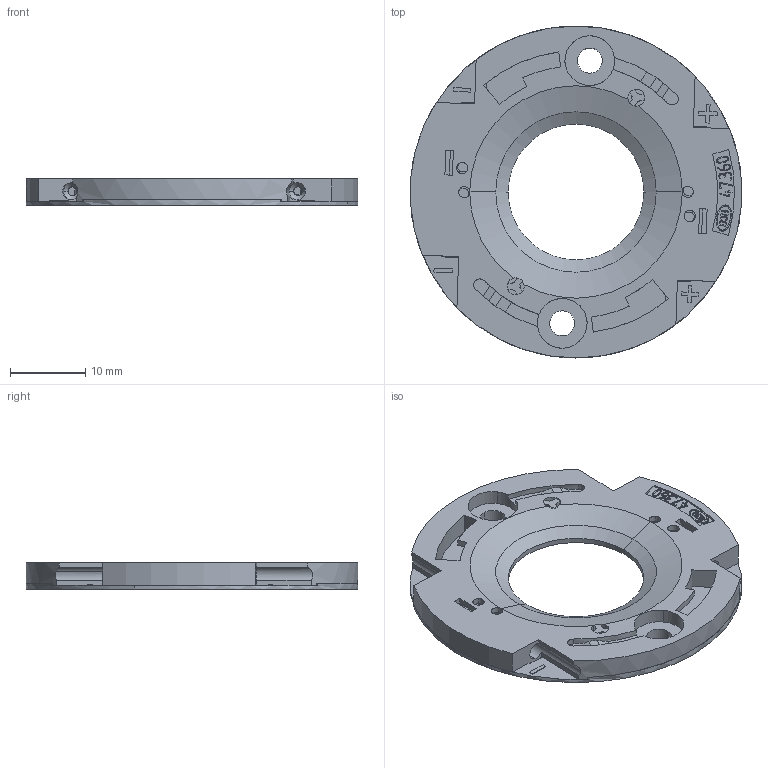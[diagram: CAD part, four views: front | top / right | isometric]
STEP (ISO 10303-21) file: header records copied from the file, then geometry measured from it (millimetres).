
FILE_DESCRIPTION(('CAx-IF Rec.Pracs.---Model Styling and Organization---1.2---2011-12-15','CAx-IF Rec.Pracs.---Geometric and Assembly Validation Properties---4.1---2014-06-16','CAx-IF Rec.Pracs.---PMI Polyline Presentation---2.0---2013-05-24'),'2;1');
FILE_NAME('01ZYR1JY05.stp','2018-07-27T06:13:34+02:00',(''),(''),'STEP Interface 4.1 Sp1 by CT CoreTechnologie','3D_Evolution4.1 Sp1 by CT CoreTechnologie','');
FILE_SCHEMA(('AUTOMOTIVE_DESIGN { 1 0 10303 214 1 1 1 1 }'));
Length unit declared in the file: millimetre
Products named in the file (3): 01Z-R1J-05; 01Z-R1G-04; 01Z-R1H-04
Assembly tree (2 placements, depth 2):
  01Z-R1J-05
    01Z-R1G-04
    01Z-R1H-04
Bounding box: 44 x 44 x 3.5 mm (x, y, z)
Volume: 2618.1 mm3; surface area: 6117.3 mm2
Topology: 2 solids, 2 shells, 711 faces, 2022 edges, 1364 vertices
Faces by surface type: plane 479, cylinder 184, bspline 48
Entity records: 30209 total; most frequent: CARTESIAN_POINT 5522, ORIENTED_EDGE 4044, DIRECTION 3816, EDGE_CURVE 2022, VECTOR 1472, LINE 1472, VERTEX_POINT 1364, AXIS2_PLACEMENT_3D 1172
